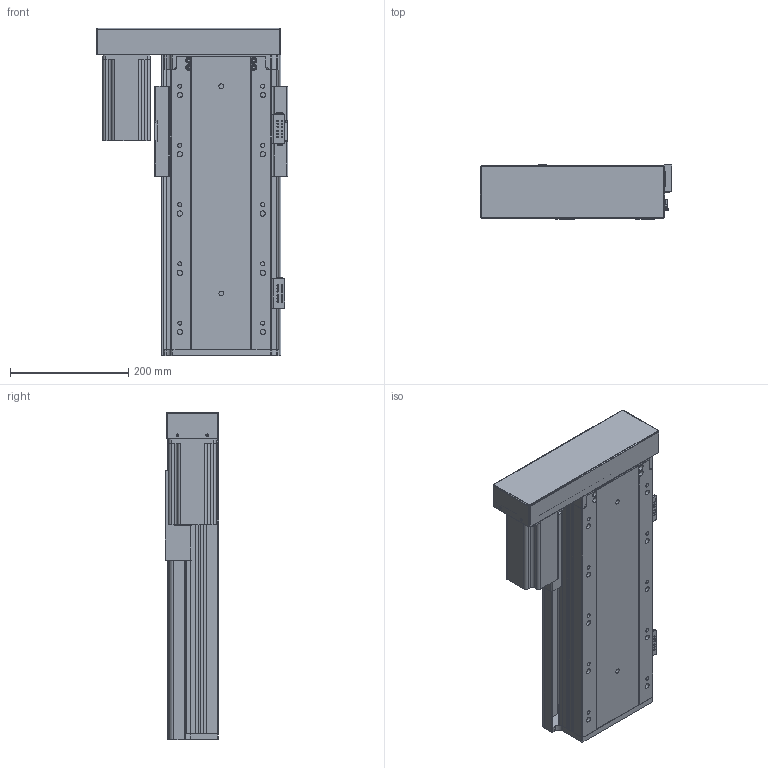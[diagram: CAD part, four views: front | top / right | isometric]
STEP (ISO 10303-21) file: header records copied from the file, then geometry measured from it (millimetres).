
FILE_DESCRIPTION (( 'STEP AP203' ), '1' );
FILE_NAME ('RY170FB-L2020-300-LK.SLDASM_250.step', '2021-02-23T03:02:22', ( '盈信电脑' ), ( '东莞市道滘镇水果街19号' ), 'SwSTEP 2.0', 'SolidWorks 2012', '' );
FILE_SCHEMA (( 'CONFIG_CONTROL_DESIGN' ));
Length unit declared in the file: millimetre
Products named in the file (16): RY170FB-L2020-300-LK.SLDASM_250; RY140FB-674嫖萇覜茼え; RY170FB-酘衵殏萇儂欶750W; RY170FB-左右折电机安装板750W; RY140-674嫖萇耀輸; RY140直线电机感应器674光电安装座; 覜茼ん674; RY170FB-铝滑块(25丝杆）; 怢湛750W萇儂ㄗ80遺ㄘ; RY170FB-綴裔啣; RY170FB-300蛌殏奻裔-LK_250; 滅袉蝶18-10; RY170FB-300蛌殏倰第菁釱-LK_250; RY170FB-转折电机端支撑座(7002); 滅袉蝶18-28
Assembly tree (18 placements, depth 3):
  RY170FB-L2020-300-LK.SLDASM_250
    RY170FB-300蛌殏倰第菁釱-LK_250
    滅袉蝶18-28
    滅袉蝶18-10
    RY170FB-转折电机端支撑座(7002)
    怢湛750W萇儂ㄗ80遺ㄘ
    RY170FB-铝滑块(25丝杆）
    RY170FB-綴裔啣
    RY170FB-300蛌殏奻裔-LK_250
    RY140-674嫖萇耀輸
      覜茼ん674  x2
      RY140直线电机感应器674光电安装座
    RY140-674嫖萇耀輸
      覜茼ん674
      RY140直线电机感应器674光电安装座
    RY140FB-674嫖萇覜茼え
    RY170FB-左右折电机安装板750W
    RY170FB-酘衵殏萇儂欶750W
Bounding box: 323.95 x 90.5 x 552.7 mm (x, y, z)
Volume: 4477904.7 mm3; surface area: 1225517 mm2
Topology: 16 solids, 16 shells, 1449 faces, 4062 edges, 2592 vertices
Faces by surface type: cylinder 731, plane 586, cone 124, bspline 8
Entity records: 45039 total; most frequent: CARTESIAN_POINT 10270, ORIENTED_EDGE 6928, DIRECTION 6854, EDGE_CURVE 3464, AXIS2_PLACEMENT_3D 2478, VERTEX_POINT 2272, VECTOR 1898, LINE 1898
